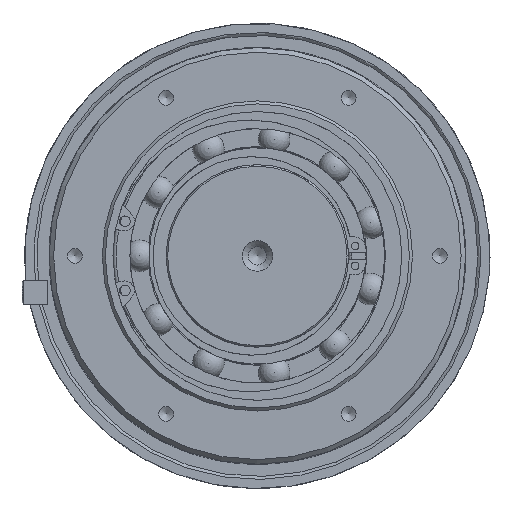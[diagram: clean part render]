
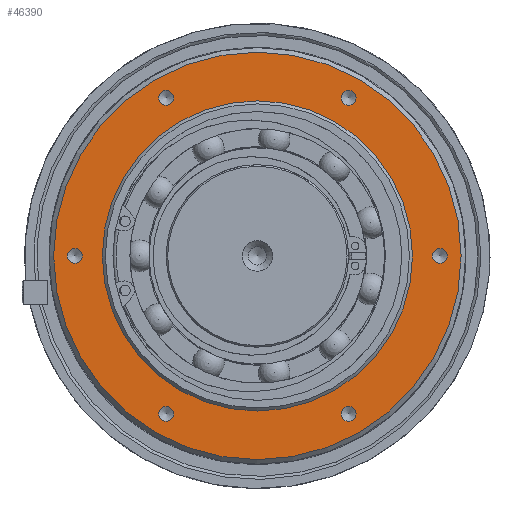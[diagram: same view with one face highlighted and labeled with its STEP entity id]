
A CAD part, left-side view. The second image highlights one B-rep face of the part: STEP entity #46390.
In plain terms, the highlighted planar face has unit normal (-1, 0, 0).
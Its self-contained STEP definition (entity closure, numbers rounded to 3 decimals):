
#8420=FACE_BOUND('',#12762,.T.);
#8421=FACE_BOUND('',#12763,.T.);
#8422=FACE_BOUND('',#12764,.T.);
#8423=FACE_BOUND('',#12765,.T.);
#8424=FACE_BOUND('',#12766,.T.);
#8425=FACE_BOUND('',#12767,.T.);
#8426=FACE_BOUND('',#12768,.T.);
#10085=FACE_OUTER_BOUND('',#12761,.T.);
#12761=EDGE_LOOP('',(#38906));
#12762=EDGE_LOOP('',(#38907));
#12763=EDGE_LOOP('',(#38908));
#12764=EDGE_LOOP('',(#38909));
#12765=EDGE_LOOP('',(#38910));
#12766=EDGE_LOOP('',(#38911));
#12767=EDGE_LOOP('',(#38912));
#12768=EDGE_LOOP('',(#38913));
#15523=CIRCLE('',#52625,67.);
#15524=CIRCLE('',#52627,2.459);
#15525=CIRCLE('',#52628,2.459);
#15526=CIRCLE('',#52629,2.459);
#15527=CIRCLE('',#52630,2.459);
#15528=CIRCLE('',#52631,2.459);
#15529=CIRCLE('',#52632,2.459);
#15530=CIRCLE('',#52633,51.);
#19889=VERTEX_POINT('',#92051);
#19890=VERTEX_POINT('',#92054);
#19891=VERTEX_POINT('',#92056);
#19892=VERTEX_POINT('',#92058);
#19893=VERTEX_POINT('',#92060);
#19894=VERTEX_POINT('',#92062);
#19895=VERTEX_POINT('',#92064);
#19896=VERTEX_POINT('',#92066);
#26502=EDGE_CURVE('',#19889,#19889,#15523,.T.);
#26503=EDGE_CURVE('',#19890,#19890,#15524,.T.);
#26504=EDGE_CURVE('',#19891,#19891,#15525,.T.);
#26505=EDGE_CURVE('',#19892,#19892,#15526,.T.);
#26506=EDGE_CURVE('',#19893,#19893,#15527,.T.);
#26507=EDGE_CURVE('',#19894,#19894,#15528,.T.);
#26508=EDGE_CURVE('',#19895,#19895,#15529,.T.);
#26509=EDGE_CURVE('',#19896,#19896,#15530,.T.);
#38906=ORIENTED_EDGE('',*,*,#26502,.F.);
#38907=ORIENTED_EDGE('',*,*,#26503,.T.);
#38908=ORIENTED_EDGE('',*,*,#26504,.T.);
#38909=ORIENTED_EDGE('',*,*,#26505,.T.);
#38910=ORIENTED_EDGE('',*,*,#26506,.T.);
#38911=ORIENTED_EDGE('',*,*,#26507,.T.);
#38912=ORIENTED_EDGE('',*,*,#26508,.T.);
#38913=ORIENTED_EDGE('',*,*,#26509,.T.);
#43875=PLANE('',#52626);
#46390=ADVANCED_FACE('',(#10085,#8420,#8421,#8422,#8423,#8424,#8425,#8426),
#43875,.T.);
#52625=AXIS2_PLACEMENT_3D('',#92052,#66426,#66427);
#52626=AXIS2_PLACEMENT_3D('',#92053,#66428,#66429);
#52627=AXIS2_PLACEMENT_3D('',#92055,#66430,#66431);
#52628=AXIS2_PLACEMENT_3D('',#92057,#66432,#66433);
#52629=AXIS2_PLACEMENT_3D('',#92059,#66434,#66435);
#52630=AXIS2_PLACEMENT_3D('',#92061,#66436,#66437);
#52631=AXIS2_PLACEMENT_3D('',#92063,#66438,#66439);
#52632=AXIS2_PLACEMENT_3D('',#92065,#66440,#66441);
#52633=AXIS2_PLACEMENT_3D('',#92067,#66442,#66443);
#66426=DIRECTION('center_axis',(1.,0.,0.));
#66427=DIRECTION('ref_axis',(0.,1.,0.));
#66428=DIRECTION('center_axis',(-1.,0.,0.));
#66429=DIRECTION('ref_axis',(0.,0.,1.));
#66430=DIRECTION('center_axis',(1.,0.,0.));
#66431=DIRECTION('ref_axis',(0.,0.,
1.));
#66432=DIRECTION('center_axis',(1.,0.,0.));
#66433=DIRECTION('ref_axis',(0.,0.,
1.));
#66434=DIRECTION('center_axis',(1.,0.,0.));
#66435=DIRECTION('ref_axis',(0.,0.,
1.));
#66436=DIRECTION('center_axis',(1.,0.,0.));
#66437=DIRECTION('ref_axis',(0.,0.,
1.));
#66438=DIRECTION('center_axis',(1.,0.,0.));
#66439=DIRECTION('ref_axis',(0.,0.,
1.));
#66440=DIRECTION('center_axis',(1.,0.,0.));
#66441=DIRECTION('ref_axis',(0.,0.,
1.));
#66442=DIRECTION('center_axis',(1.,0.,0.));
#66443=DIRECTION('ref_axis',(0.,1.,0.));
#92051=CARTESIAN_POINT('',(-33.,67.,0.));
#92052=CARTESIAN_POINT('Origin',(-33.,0.,
0.));
#92053=CARTESIAN_POINT('Origin',(-33.,59.,0.));
#92054=CARTESIAN_POINT('',(-33.,30.,54.42));
#92055=CARTESIAN_POINT('Origin',(-33.,30.,51.962));
#92056=CARTESIAN_POINT('',(-33.,-30.,54.42));
#92057=CARTESIAN_POINT('Origin',(-33.,-30.,51.962));
#92058=CARTESIAN_POINT('',(-33.,-60.,2.459));
#92059=CARTESIAN_POINT('Origin',(-33.,-60.,0.));
#92060=CARTESIAN_POINT('',(-33.,-30.,-49.503));
#92061=CARTESIAN_POINT('Origin',(-33.,-30.,-51.962));
#92062=CARTESIAN_POINT('',(-33.,30.,-49.503));
#92063=CARTESIAN_POINT('Origin',(-33.,30.,-51.962));
#92064=CARTESIAN_POINT('',(-33.,60.,2.458));
#92065=CARTESIAN_POINT('Origin',(-33.,60.,0.));
#92066=CARTESIAN_POINT('',(-33.,51.,0.));
#92067=CARTESIAN_POINT('Origin',(-33.,0.,0.));
